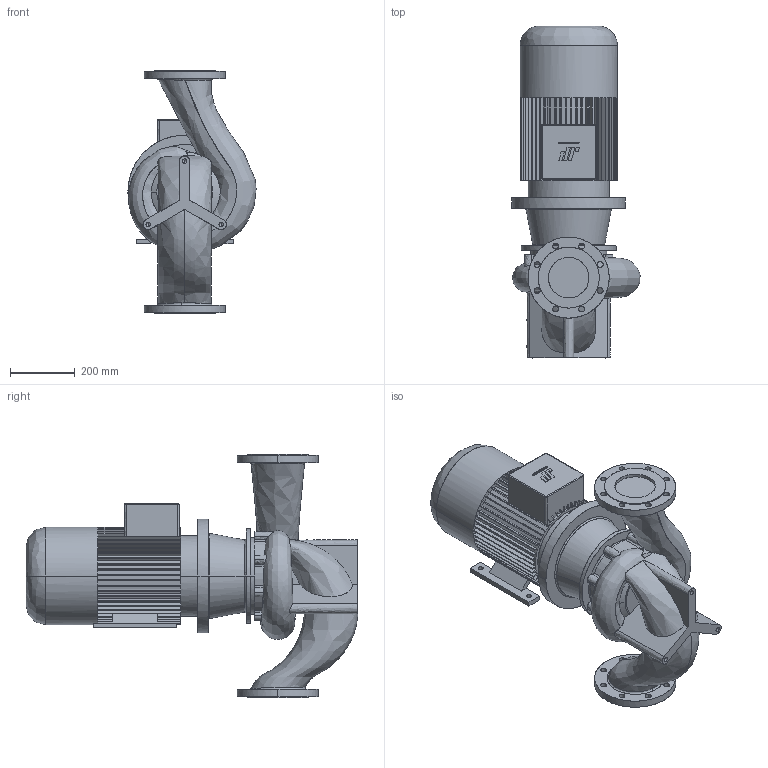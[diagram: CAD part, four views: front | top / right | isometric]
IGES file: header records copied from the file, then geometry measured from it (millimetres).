
Start section: CombiLine
Global section: file name: CLB_125-200_IEC160M_ND10.igs; native system:  By UGS Corp.; preprocessor: XPlus GENERIC/IGES 3.0; author: Stageplaats; organization: Johnson Pump Water B.V.; date: 20070717.133339; units: millimetre
Bounding box: 395.09 x 1023 x 750 mm (x, y, z)
Surface area: 2236117.8 mm2 (no closed solid volume)
Topology: 0 solids, 0 shells, 598 faces, 3625 edges, 3619 vertices
Faces by surface type: bspline 598
